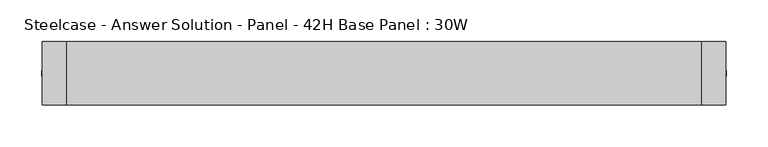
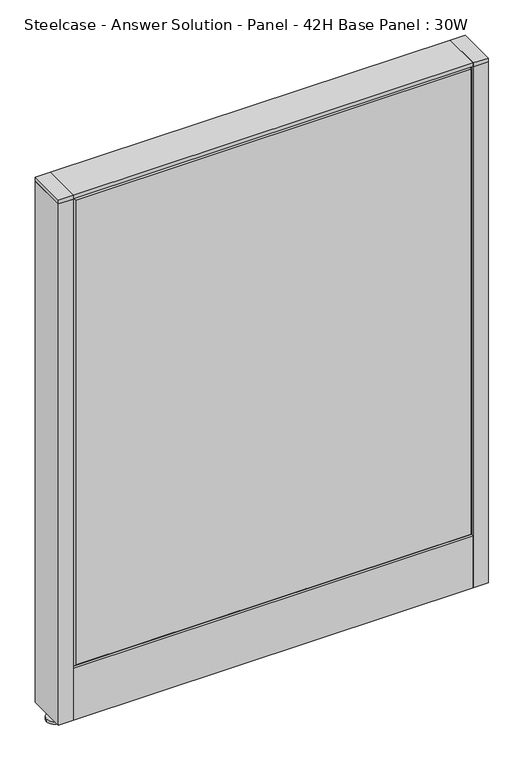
"""IFC4 building model written with IfcOpenShell, lengths in millimetres: furniture geometry, Steelcase - Answer Solution - Panel - 42H Base Panel : 30W."""

from ifc_helpers import new_model, si_unit, point, frame, frame_2d, origin, place, context, project, spatial, polyline, circle_curve, trimmed, segment, composite_curve, outline, extrude, faceted_brep, source, transform, mapped, element, save


def steelcase_answer_solution_panel_42h_base_panel_30w_0f49304a(model_context):
    return source(origin(), model_context, "Body", "SolidModel", [
        extrude(outline(composite_curve([segment(trimmed(circle_curve(frame_2d((395.224, 0.0039657)), 5.08), [point((400.304, 0.0039657))], [point((390.144, 0.0039657))], False, "CARTESIAN"), True, "CONTINUOUS"), segment(trimmed(circle_curve(frame_2d((395.224, 0.0039657)), 5.08), [point((390.144, 0.0039657))], [point((400.304, 0.0039657))], False, "CARTESIAN"), True, "CONTINUOUS")], self_intersect=False)), frame((0.0, 0.0, 5.0799671), z_axis=(0.0, 0.0, 1.0), x_axis=(1.0, 0.0, 0.0)), (0.0, 0.0, 1.0), 10.414),
        extrude(outline(composite_curve([segment(trimmed(circle_curve(frame_2d((395.224, 0.0039657)), 15.24), [point((410.464, 0.0039657))], [point((379.984, 0.0039657))], False, "CARTESIAN"), True, "CONTINUOUS"), segment(trimmed(circle_curve(frame_2d((395.224, 0.0039657)), 15.24), [point((379.984, 0.0039657))], [point((410.464, 0.0039657))], False, "CARTESIAN"), True, "CONTINUOUS")], self_intersect=False)), frame((0.0, 0.0, -3.29e-05), z_axis=(0.0, 0.0, 1.0), x_axis=(1.0, 0.0, 0.0)), (0.0, 0.0, 1.0), 5.08),
        extrude(outline(polyline([(409.575, 38.1039851), (409.575, -38.0960149), (381.0, -38.0960149), (381.0, 38.1039851), (409.575, 38.1039851)])), frame((0.0, 0.0, 1065.8348), z_axis=(0.0, 0.0, 1.0), x_axis=(1.0, 0.0, 0.0)), (0.0, 0.0, 1.0), 7.3151671),
        extrude(outline(polyline([(409.575, 38.1039851), (409.575, -38.0960149), (381.0, -38.0960149), (381.0, 38.1039851), (409.575, 38.1039851)])), frame((0.0, 0.0, 15.4939671), z_axis=(0.0, 0.0, 1.0), x_axis=(1.0, 0.0, 0.0)), (0.0, 0.0, 1.0), 1050.3408329),
        extrude(outline(composite_curve([segment(trimmed(circle_curve(frame_2d((-395.224, 0.0039657)), 5.08), [point((-400.304, 0.0039657))], [point((-390.144, 0.0039657))], False, "CARTESIAN"), True, "CONTINUOUS"), segment(trimmed(circle_curve(frame_2d((-395.224, 0.0039657)), 5.08), [point((-390.144, 0.0039657))], [point((-400.304, 0.0039657))], False, "CARTESIAN"), True, "CONTINUOUS")], self_intersect=False)), frame((0.0, 0.0, 5.0799671), z_axis=(0.0, 0.0, 1.0), x_axis=(1.0, 0.0, 0.0)), (0.0, 0.0, 1.0), 10.414),
        extrude(outline(composite_curve([segment(trimmed(circle_curve(frame_2d((-395.224, 0.0039657)), 15.24), [point((-410.464, 0.0039657))], [point((-379.984, 0.0039657))], False, "CARTESIAN"), True, "CONTINUOUS"), segment(trimmed(circle_curve(frame_2d((-395.224, 0.0039657)), 15.24), [point((-379.984, 0.0039657))], [point((-410.464, 0.0039657))], False, "CARTESIAN"), True, "CONTINUOUS")], self_intersect=False)), frame((0.0, 0.0, -3.29e-05), z_axis=(0.0, 0.0, 1.0), x_axis=(1.0, 0.0, 0.0)), (0.0, 0.0, 1.0), 5.08),
        extrude(outline(polyline([(-409.575, 38.1039851), (-381.0, 38.1039851), (-381.0, -38.0960149), (-409.575, -38.0960149), (-409.575, 38.1039851)])), frame((0.0, 0.0, 1065.8348), z_axis=(0.0, 0.0, 1.0), x_axis=(1.0, 0.0, 0.0)), (0.0, 0.0, 1.0), 7.3151671),
        extrude(outline(polyline([(-409.575, 38.1039851), (-381.0, 38.1039851), (-381.0, -38.0960149), (-409.575, -38.0960149), (-409.575, 38.1039851)])), frame((0.0, 0.0, 15.4939671), z_axis=(0.0, 0.0, 1.0), x_axis=(1.0, 0.0, 0.0)), (0.0, 0.0, 1.0), 1050.3408329),
        faceted_brep([(-376.174, 38.1635011, 1061.974), (376.174, 38.1635011, 1061.974), (376.174, 38.1635011, 125.476), (-376.174, 38.1635011, 125.476), (-381.0, 33.3375011, 1066.8), (-381.0, 33.3375011, 120.65), (381.0, 33.3375011, 120.65), (381.0, 33.3375011, 1066.8)], [[[0, 1, 2, 3]], [[4, 5, 6, 7]], [[4, 7, 1, 0]], [[7, 6, 2, 1]], [[6, 5, 3, 2]], [[5, 4, 0, 3]]]),
        faceted_brep([(376.174, -38.1635011, 1061.974), (-376.174, -38.1635011, 1061.974), (-376.174, -38.1635011, 125.476), (376.174, -38.1635011, 125.476), (381.0, -33.3375011, 1066.8), (381.0, -33.3375011, 120.65), (-381.0, -33.3375011, 120.65), (-381.0, -33.3375011, 1066.8)], [[[0, 1, 2, 3]], [[4, 5, 6, 7]], [[4, 7, 1, 0]], [[7, 6, 2, 1]], [[6, 5, 3, 2]], [[5, 4, 0, 3]]]),
        extrude(outline(polyline([(381.0, 38.1000194), (381.0, -38.1000194), (-381.0, -38.1000194), (-381.0, 38.1000194), (381.0, 38.1000194)])), frame((0.0, 0.0, 1066.8), z_axis=(0.0, 0.0, 1.0), x_axis=(1.0, 0.0, 0.0)), (0.0, 0.0, 1.0), 6.35),
        extrude(outline(polyline([(25.4000011, 119.8575157), (25.4000011, 120.65), (38.1000194, 120.65), (38.1000194, 15.494), (37.3075215, 15.494), (37.3075215, 119.8575157), (25.4000011, 119.8575157)])), frame((-381.0, 0.0, 0.0), z_axis=(1.0, 0.0, 0.0), x_axis=(0.0, 1.0, 0.0)), (0.0, 0.0, 1.0), 762.0),
        extrude(outline(polyline([(-25.4000011, 119.8575157), (-37.3075215, 119.8575157), (-37.3075215, 15.494), (-38.1000194, 15.494), (-38.1000194, 120.65), (-25.4000011, 120.65), (-25.4000011, 119.8575157)])), frame((-381.0, 0.0, 0.0), z_axis=(1.0, 0.0, 0.0), x_axis=(0.0, 1.0, 0.0)), (0.0, 0.0, 1.0), 762.0),
    ])


if __name__ == "__main__":
    model = new_model("IFC4")
    model_context = context("Model", 3, world=origin())
    ifc_project = project(units=[si_unit("LENGTHUNIT", "METRE", prefix="MILLI")], contexts=[model_context])
    site = spatial("IfcSite", under=ifc_project)
    building = spatial("IfcBuilding", under=site)
    placement = place(None, origin())
    steelcase_answer_solution_panel_42h_base_panel_30w_shape = steelcase_answer_solution_panel_42h_base_panel_30w_0f49304a(model_context)
    element("IfcFurniture", 1, ObjectType="Steelcase - Answer Solution - Panel - 42H Base Panel : 30W", at=placement, inside=building, context=model_context, shape_type="MappedRepresentation", body=[
        mapped(steelcase_answer_solution_panel_42h_base_panel_30w_shape, transform((0.0, 0.0, 0.0), x_axis=(1.0, 0.0, 0.0), y_axis=(0.0, 1.0, 0.0), z_axis=(0.0, 0.0, 1.0))),
    ])
    save(model, "model.ifc")
